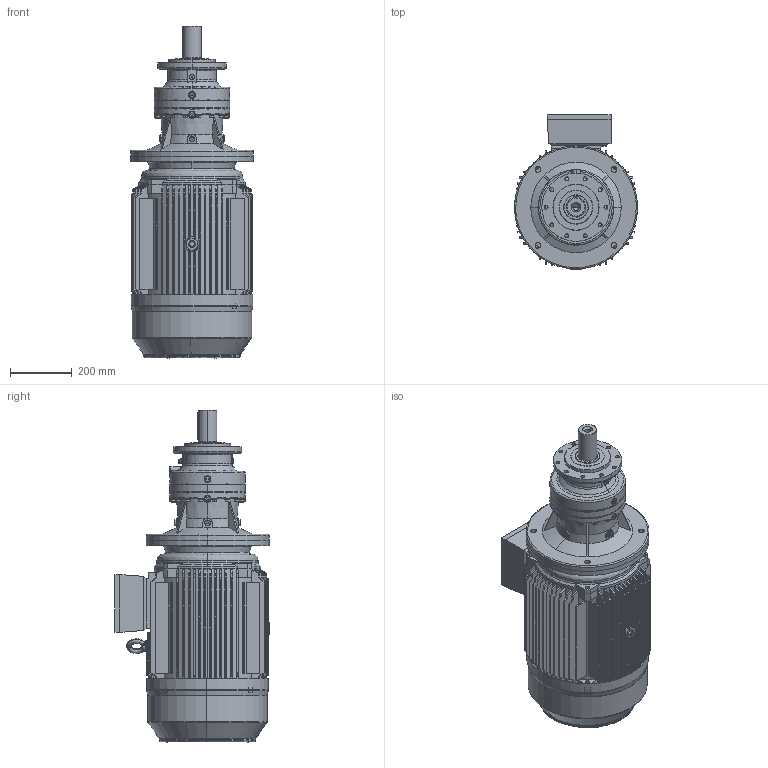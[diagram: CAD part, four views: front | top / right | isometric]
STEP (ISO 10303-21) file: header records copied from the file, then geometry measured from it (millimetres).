
FILE_DESCRIPTION (( 'STEP AP203' ), '1' );
FILE_NAME ('PVL-1501L-HS200-4.STEP', '2019-05-22T09:30:09', ( '' ), ( '' ), 'SwSTEP 2.0', 'SolidWorks 2012', '' );
FILE_SCHEMA (( 'CONFIG_CONTROL_DESIGN' ));
Products named in the file (17): HS200-4-B5; PVL-1501L-HS200-4; 200-4B5; Plain parallel keys_GB_CONNECTING_PIECE_KEYS_CSK 16X100; Y2-200-4.6.8Ã¦Íß¦ð-Ô©Ã_-¼+¤; Y2-200-4.6.8¦¾Íß¦ð-Ô©Ã_-¼+¤; Y2-200-2.4.6.8ｦｾﾂ-ｩﾃ_-ｼ+､; ﾍﾟYE3-200L-4.6.8C+ﾎA+ｳ_-ｼ+､; Y2-200+ｷﾎｨB5_-ｼ+､; Eyebolts GB_GB_FASTENER_SCREWS_FRS M16-N; MN2-200ﾀiﾍ_-ｼ+､; FL3A_Varsayìlan; PNL_1501L_0_0_A20_B5_ML13A_FL3A_0_0_0_0_0_0_0_0_0_0_0_M1; ML13A_Varsayìlan; Y2-200-4.6.8-ｦﾈﾁﾂ-ｩﾃ_-ｼ+､; P15_Varsayìlan; 15200B5_Varsayìlan
Assembly tree (16 placements, depth 4):
  PVL-1501L-HS200-4
    PNL_1501L_0_0_A20_B5_ML13A_FL3A_0_0_0_0_0_0_0_0_0_0_0_M1
      P15_Varsayìlan
      15200B5_Varsayìlan
      ML13A_Varsayìlan
      FL3A_Varsayìlan
    HS200-4-B5
      200-4B5
        Y2-200-4.6.8-ｦﾈﾁﾂ-ｩﾃ_-ｼ+､
        MN2-200ﾀiﾍ_-ｼ+､
        Eyebolts GB_GB_FASTENER_SCREWS_FRS M16-N
        Y2-200+ｷﾎｨB5_-ｼ+､
        Y2-200-4.6.8Ã¦Íß¦ð-Ô©Ã_-¼+¤
        ﾍﾟYE3-200L-4.6.8C+ﾎA+ｳ_-ｼ+､
        Y2-200-2.4.6.8ｦｾﾂ-ｩﾃ_-ｼ+､
        Y2-200-4.6.8¦¾Íß¦ð-Ô©Ã_-¼+¤
        Plain parallel keys_GB_CONNECTING_PIECE_KEYS_CSK 16X100
Bounding box: 400 x 501.01 x 1079.8 mm (x, y, z)
Volume: 30430117.4 mm3; surface area: 4658669.5 mm2
Topology: 13 solids, 13 shells, 3146 faces, 8036 edges, 5030 vertices
Faces by surface type: cylinder 1084, cone 995, plane 888, bspline 179
Entity records: 111429 total; most frequent: CARTESIAN_POINT 33416, DIRECTION 16403, ORIENTED_EDGE 16000, EDGE_CURVE 8000, AXIS2_PLACEMENT_3D 6502, VERTEX_POINT 5030, CIRCLE 3513, EDGE_LOOP 3436
